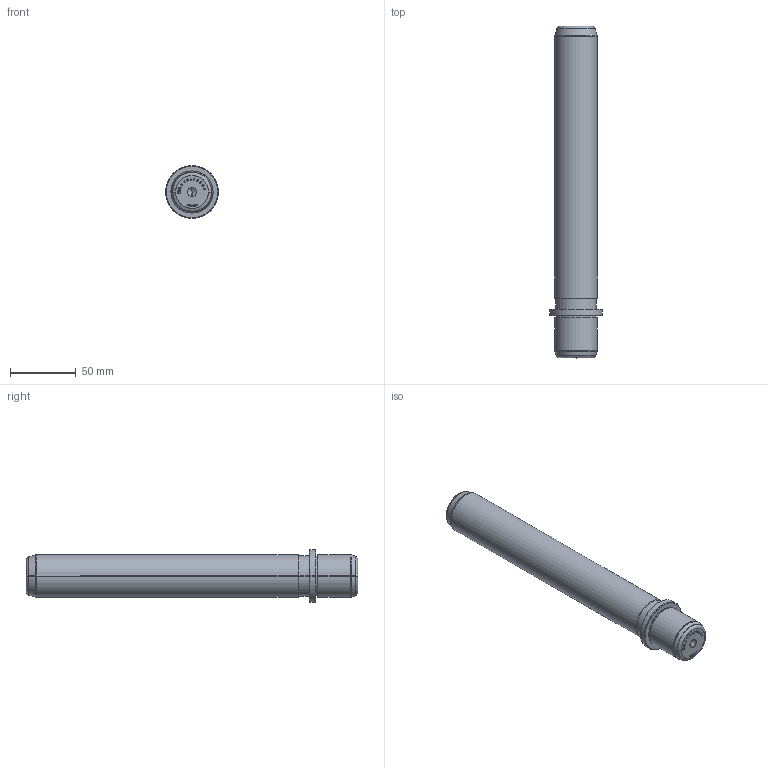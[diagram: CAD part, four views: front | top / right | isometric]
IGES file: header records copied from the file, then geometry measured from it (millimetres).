
Start section: SolidWorks IGES file using analytic representation for surfaces
Global section: file name: D:\Cleonir_arquivos\MT_15_07\Pinos Desmontáveis\PFG32220.igs; native system: SolidWorks 2013; preprocessor: SolidWorks 2013; author: Cleonir; date: 130730.162430; units: millimetre
Bounding box: 40 x 252 x 40 mm (x, y, z)
Surface area: 28531.2 mm2 (no closed solid volume)
Topology: 0 solids, 0 shells, 320 faces, 3680 edges, 3676 vertices
Faces by surface type: bspline 279, revolution 41
